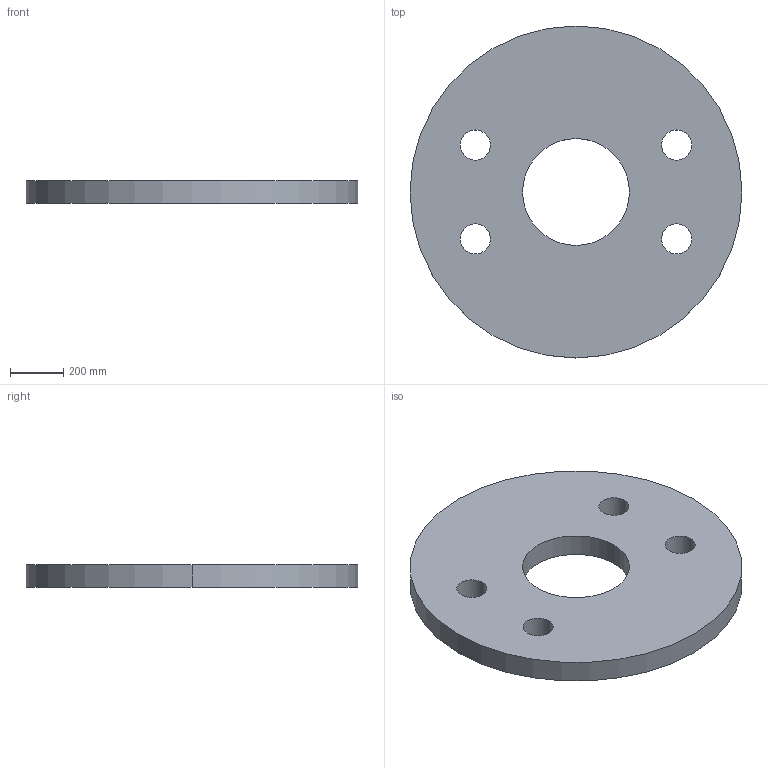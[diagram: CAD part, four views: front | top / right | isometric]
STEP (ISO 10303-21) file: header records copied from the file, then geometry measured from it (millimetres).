
FILE_DESCRIPTION (( 'STEP AP203' ), '1' );
FILE_NAME ('Kreissscheibe M100.STEP', '2018-02-22T05:56:45', ( 'install' ), ( 'Hewlett-Packard Company' ), 'SwSTEP 2.0', 'SolidWorks 2017', '' );
FILE_SCHEMA (( 'CONFIG_CONTROL_DESIGN' ));
Length unit declared in the file: millimetre
Products named in the file (1): Kreissscheibe M100
Bounding box: 1243 x 1243 x 85 mm (x, y, z)
Volume: 89054495.3 mm3; surface area: 2654839 mm2
Topology: 1 solids, 1 shells, 14 faces, 36 edges, 24 vertices
Faces by surface type: cylinder 12, plane 2
Entity records: 541 total; most frequent: DIRECTION 90, CARTESIAN_POINT 75, ORIENTED_EDGE 72, AXIS2_PLACEMENT_3D 39, EDGE_CURVE 36, CIRCLE 24, VERTEX_POINT 24, EDGE_LOOP 24
